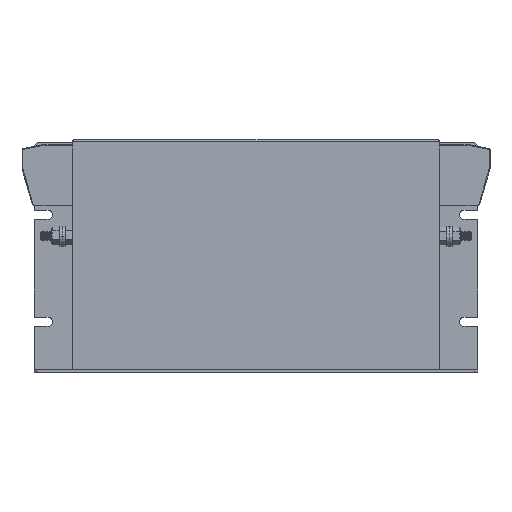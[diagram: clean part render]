
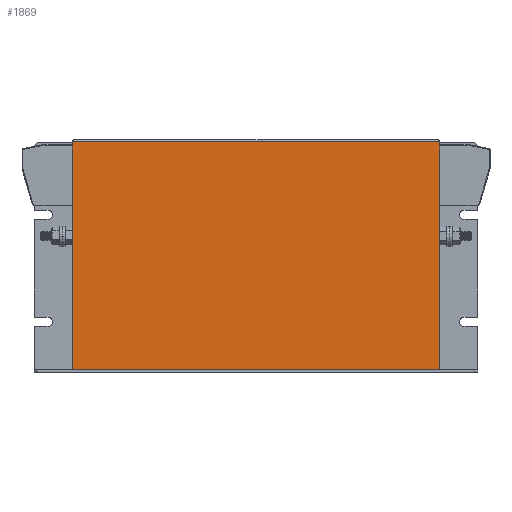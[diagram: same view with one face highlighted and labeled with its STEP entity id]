
A CAD part, top view. The second image highlights one B-rep face of the part: STEP entity #1869.
In plain terms, the highlighted planar face has unit normal (0, 0, 1).
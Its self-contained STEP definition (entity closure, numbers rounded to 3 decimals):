
#1738 = VERTEX_POINT ( 'NONE', #5685 ) ;
#1740 = EDGE_CURVE ( 'NONE', #1761, #1738, #5684, .T. ) ;
#1761 = VERTEX_POINT ( 'NONE', #5767 ) ;
#1869 = ADVANCED_FACE ( 'NONE', ( #5902 ), #5901, .F. ) ;
#1870 = EDGE_LOOP ( 'NONE', ( #1871, #1874, #1876, #1877 ) ) ;
#1871 = ORIENTED_EDGE ( 'NONE', *, *, #1872, .F. ) ;
#1872 = EDGE_CURVE ( 'NONE', #1873, #1738, #5964, .T. ) ;
#1873 = VERTEX_POINT ( 'NONE', #5960 ) ;
#1874 = ORIENTED_EDGE ( 'NONE', *, *, #1875, .T. ) ;
#1875 = EDGE_CURVE ( 'NONE', #1873, #1888, #5959, .T. ) ;
#1876 = ORIENTED_EDGE ( 'NONE', *, *, #1887, .T. ) ;
#1877 = ORIENTED_EDGE ( 'NONE', *, *, #1740, .T. ) ;
#1887 = EDGE_CURVE ( 'NONE', #1888, #1761, #5935, .T. ) ;
#1888 = VERTEX_POINT ( 'NONE', #5995 ) ;
#5681 = DIRECTION ( 'NONE',  ( 1., 0., 0. ) ) ;
#5682 = VECTOR ( 'NONE', #5681, 1000. ) ;
#5683 = CARTESIAN_POINT ( 'NONE',  ( 25., 1.5, 1.5 ) ) ;
#5684 = LINE ( 'NONE', #5683, #5682 ) ;
#5685 = CARTESIAN_POINT ( 'NONE',  ( 265., 1.5, 1.5 ) ) ;
#5767 = CARTESIAN_POINT ( 'NONE',  ( 25., 1.5, 1.5 ) ) ;
#5897 = DIRECTION ( 'NONE',  ( -1., 0., 0. ) ) ;
#5898 = DIRECTION ( 'NONE',  ( 0., 0., -1. ) ) ;
#5899 = AXIS2_PLACEMENT_3D ( 'NONE', #5900, #5898, #5897 ) ;
#5900 = CARTESIAN_POINT ( 'NONE',  ( 25., 152., 1.5 ) ) ;
#5901 = PLANE ( 'NONE',  #5899 ) ;
#5902 = FACE_OUTER_BOUND ( 'NONE', #1870, .T. ) ;
#5932 = DIRECTION ( 'NONE',  ( 0., -1., 0. ) ) ;
#5933 = VECTOR ( 'NONE', #5932, 1000. ) ;
#5934 = CARTESIAN_POINT ( 'NONE',  ( 25., 152., 1.5 ) ) ;
#5935 = LINE ( 'NONE', #5934, #5933 ) ;
#5956 = DIRECTION ( 'NONE',  ( -1., 0., 0. ) ) ;
#5957 = VECTOR ( 'NONE', #5956, 1000. ) ;
#5958 = CARTESIAN_POINT ( 'NONE',  ( 25., 150.5, 1.5 ) ) ;
#5959 = LINE ( 'NONE', #5958, #5957 ) ;
#5960 = CARTESIAN_POINT ( 'NONE',  ( 265., 150.5, 1.5 ) ) ;
#5961 = DIRECTION ( 'NONE',  ( 0., -1., 0. ) ) ;
#5962 = VECTOR ( 'NONE', #5961, 1000. ) ;
#5963 = CARTESIAN_POINT ( 'NONE',  ( 265., 152., 1.5 ) ) ;
#5964 = LINE ( 'NONE', #5963, #5962 ) ;
#5995 = CARTESIAN_POINT ( 'NONE',  ( 25., 150.5, 1.5 ) ) ;
